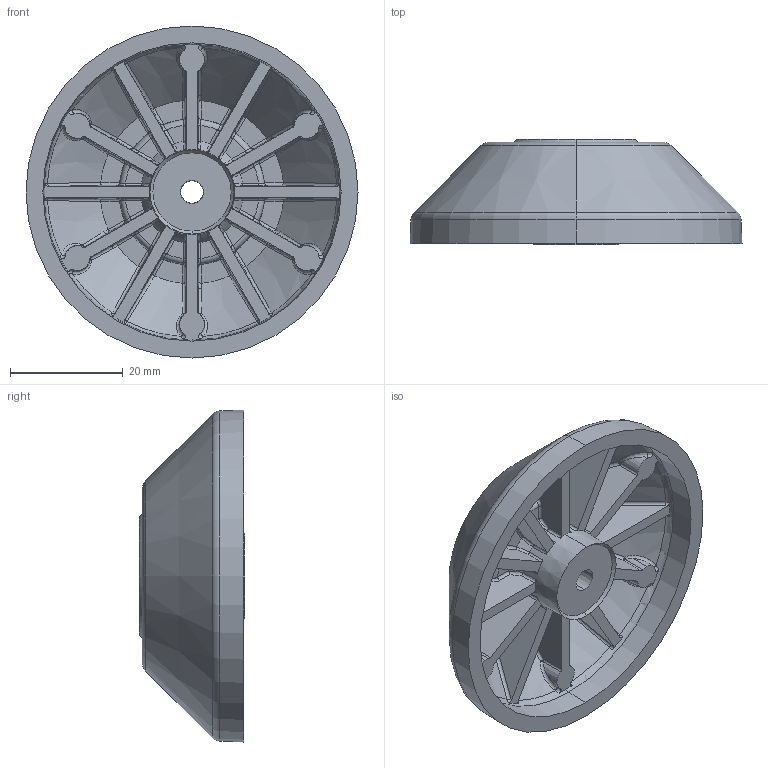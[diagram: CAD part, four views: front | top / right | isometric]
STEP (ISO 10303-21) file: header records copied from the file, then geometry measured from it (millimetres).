
FILE_DESCRIPTION(('STEP AP214'),'1');
FILE_NAME('C:/TPO v2/SharedFS/Outgoing/fath_098di060zs.stp','2016-08-29T09:34:46',('TraceParts'),('TraceParts S.A.'),'Spatial InterOp 3D',' ',' ');
FILE_SCHEMA(('automotive_design'));
Length unit declared in the file: millimetre
Products named in the file (1): fath_098di060zs
Bounding box: 59 x 18.75 x 59 mm (x, y, z)
Volume: 14816.7 mm3; surface area: 11936.7 mm2
Topology: 1 solids, 1 shells, 388 faces, 1032 edges, 648 vertices
Faces by surface type: bspline 144, plane 64, cone 60, cylinder 48, torus 42, sphere 30
Entity records: 19115 total; most frequent: CARTESIAN_POINT 7747, ORIENTED_EDGE 2064, DIRECTION 1314, EDGE_CURVE 1032, VERTEX_POINT 648, AXIS2_PLACEMENT_3D 585, B_SPLINE_CURVE_WITH_KNOTS 548, EDGE_LOOP 392
